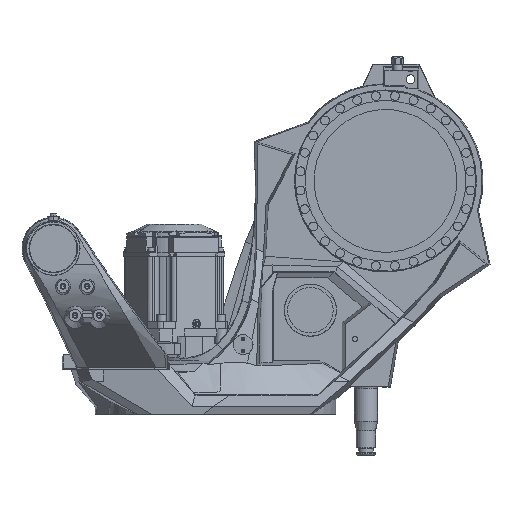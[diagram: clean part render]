
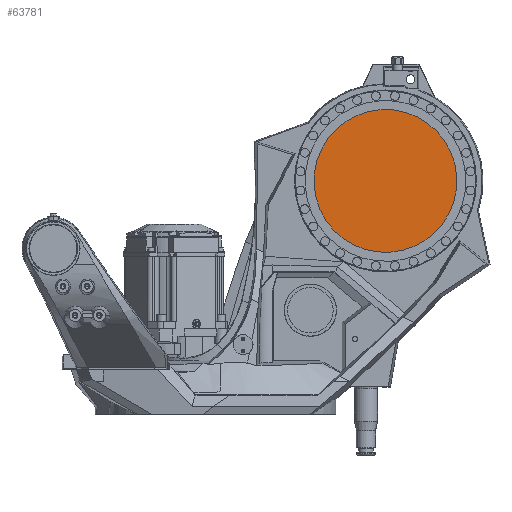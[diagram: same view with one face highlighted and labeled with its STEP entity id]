
A CAD part, front view. The second image highlights one B-rep face of the part: STEP entity #63781.
In plain terms, the highlighted planar face has unit normal (0, -1, 0).
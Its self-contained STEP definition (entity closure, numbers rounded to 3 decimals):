
#1911 = EDGE_CURVE ( 'NONE', #43463, #41509, #27569, .T. ) ;
#2071 = CARTESIAN_POINT ( 'NONE',  ( 335.997, -140., 744.475 ) ) ;
#6087 = ORIENTED_EDGE ( 'NONE', *, *, #1911, .T. ) ;
#11540 = FACE_OUTER_BOUND ( 'NONE', #20999, .T. ) ;
#13417 = PLANE ( 'NONE',  #113294 ) ;
#20999 = EDGE_LOOP ( 'NONE', ( #6087, #106546 ) ) ;
#21906 = DIRECTION ( 'NONE',  ( 0., -1., 0. ) ) ;
#27569 = CIRCLE ( 'NONE', #98017, 147.5 ) ;
#29688 = CIRCLE ( 'NONE', #102125, 147.5 ) ;
#30808 = CARTESIAN_POINT ( 'NONE',  ( 340., -140., 780. ) ) ;
#34124 = EDGE_CURVE ( 'NONE', #41509, #43463, #29688, .T. ) ;
#41509 = VERTEX_POINT ( 'NONE', #101744 ) ;
#43463 = VERTEX_POINT ( 'NONE', #83598 ) ;
#46743 = DIRECTION ( 'NONE',  ( -0.994, 0., 0.112 ) ) ;
#51001 = DIRECTION ( 'NONE',  ( -0.994, 0., 0.112 ) ) ;
#63781 = ADVANCED_FACE ( 'NONE', ( #11540 ), #13417, .F. ) ;
#69559 = DIRECTION ( 'NONE',  ( 0., 1., 0. ) ) ;
#83598 = CARTESIAN_POINT ( 'NONE',  ( 193.427, -140., 796.515 ) ) ;
#83874 = DIRECTION ( 'NONE',  ( 0., -1., 0. ) ) ;
#98017 = AXIS2_PLACEMENT_3D ( 'NONE', #30808, #21906, #51001 ) ;
#101744 = CARTESIAN_POINT ( 'NONE',  ( 486.573, -140., 763.485 ) ) ;
#102125 = AXIS2_PLACEMENT_3D ( 'NONE', #112938, #83874, #46743 ) ;
#106546 = ORIENTED_EDGE ( 'NONE', *, *, #34124, .T. ) ;
#108596 = DIRECTION ( 'NONE',  ( 0.994, 0., -0.112 ) ) ;
#112938 = CARTESIAN_POINT ( 'NONE',  ( 340., -140., 780. ) ) ;
#113294 = AXIS2_PLACEMENT_3D ( 'NONE', #2071, #69559, #108596 ) ;
